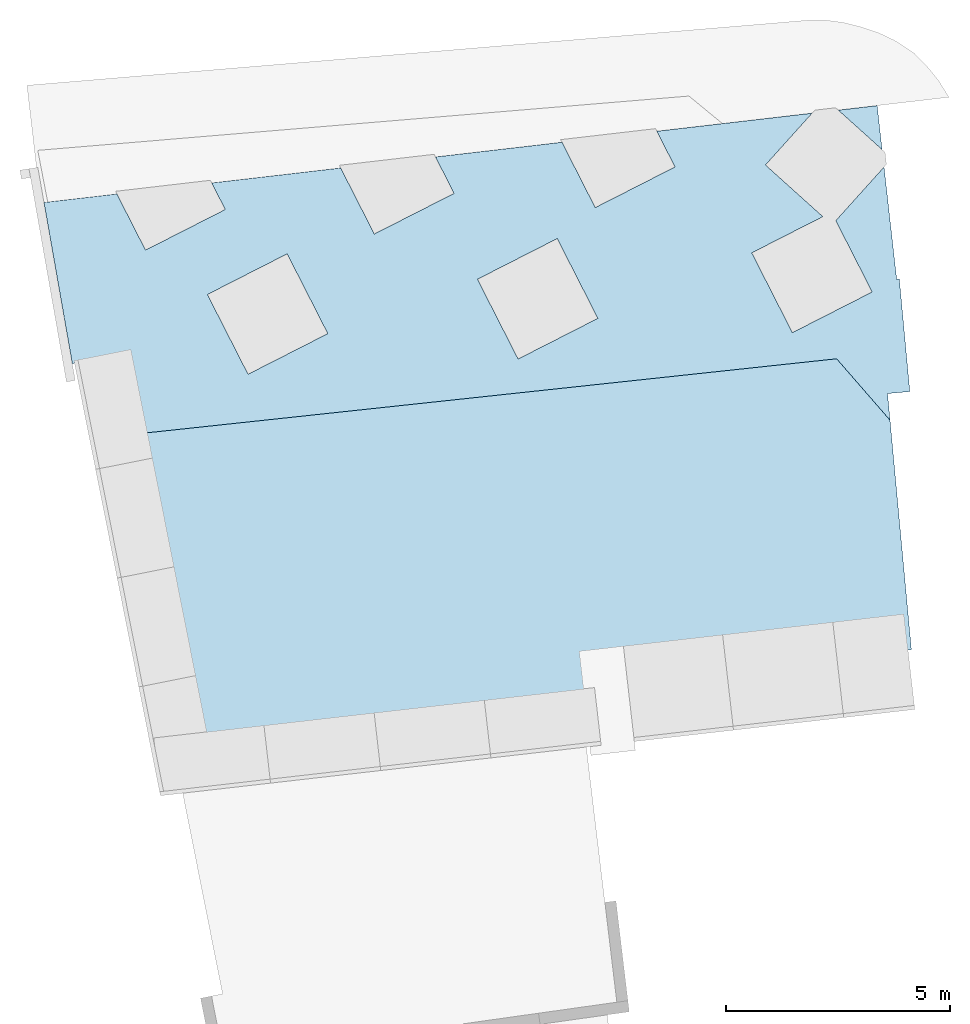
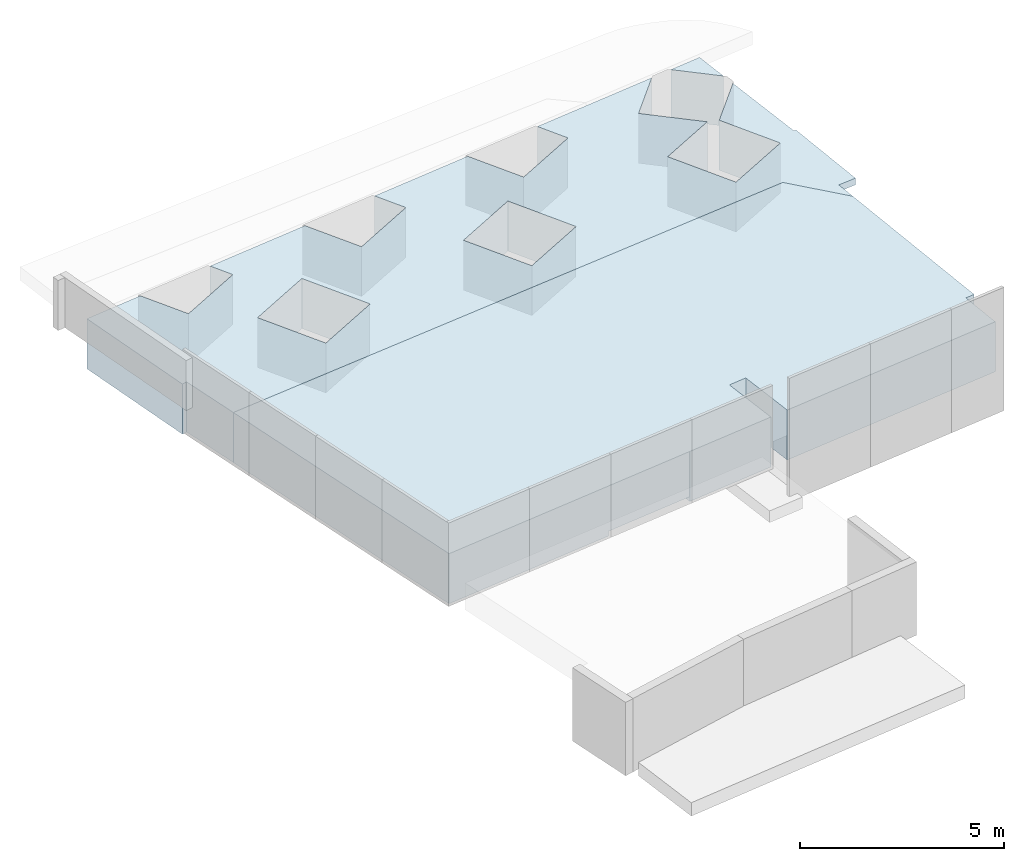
# One storey, part 2 of 3: 2 slabs.
"""IFC2X3 building model written with IfcOpenShell, lengths in centimetres."""

from ifc_helpers import new_model, entity, si_unit, converted_unit, derived_unit, direction, frame, origin, place, context, subcontext, project, spatial, face_set, faceted_brep, surface_model, material, material_list, layer, layer_set, layer_usage, type_object, element, save


model = new_model("IFC2X3")

# Units and contexts
model_context = context("Model", 3, precision=0.001, world=origin(), true_north=direction((0.0, 1.0)))
body_context = subcontext(model_context, "Body", "Model", "MODEL_VIEW")
ifc_project = project(units=[si_unit("LENGTHUNIT", "METRE", prefix="CENTI"), si_unit("AREAUNIT", "SQUARE_METRE"), si_unit("VOLUMEUNIT", "CUBIC_METRE"), converted_unit("PLANEANGLEUNIT", "DEGREE", entity("IfcPlaneAngleMeasure", 0.017453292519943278), si_unit("PLANEANGLEUNIT", "RADIAN"), dimensions=[0, 0, 0, 0, 0, 0, 0]), derived_unit("THERMALTRANSMITTANCEUNIT", [(si_unit("MASSUNIT", "GRAM", prefix="KILO"), 1), (si_unit("THERMODYNAMICTEMPERATUREUNIT", "KELVIN"), -1), (si_unit("TIMEUNIT", "SECOND"), -3)])], contexts=[model_context])

# Site, building, storey
site_placement = place(None, frame((0.0, 0.0, 30720.0)))
site = spatial("IfcSite", under=ifc_project, at=site_placement, Name="Default", CompositionType="ELEMENT")
building_placement = place(site_placement, origin())
building = spatial("IfcBuilding", under=site, at=building_placement, CompositionType="ELEMENT")
storey_placement = place(building_placement, origin())
storey = spatial("IfcBuildingStorey", under=building, at=storey_placement, Name="RdC", CompositionType="ELEMENT", Elevation=0.0)

# Slabs
ifc_material_1 = material(Name="05-Couche de forme 1")
ifc_layer_1 = layer(ifc_material_1, 30.0)
ifc_material_2 = material(Name="05-Couche de forme 2")
ifc_layer_2 = layer(ifc_material_2, 120.0)
ifc_layer_set = layer_set([ifc_layer_1, ifc_layer_2], Name="Sol:plateforme finie")
ifc_layer_usage = layer_usage(ifc_layer_set, "AXIS3", "POSITIVE", 0.0)
slab_type_1 = type_object("IfcSlabType", Name="Sol:plateforme finie", PredefinedType="FLOOR", material=ifc_layer_set)
slab_1_placement = place(storey_placement, origin())
element("IfcSlab", 1, at=slab_1_placement, inside=storey, type_object=slab_type_1, material=ifc_layer_usage, Name="Sol:plateforme finie", PredefinedType="FLOOR", context=body_context, shape_type="SurfaceModel", body=[
    surface_model("IfcFaceBasedSurfaceModel", [(27055.95457853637, -13565.14747917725, -159.99999952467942), (26899.363537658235, -12776.262073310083, -159.99999952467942), (28560.976065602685, -12597.90755857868, -159.99999952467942), (28680.41643256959, -12735.307983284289, -159.99999952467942), (28728.172244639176, -13248.427956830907, -159.99999952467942), (28703.26884879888, -13250.745599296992, -159.99999952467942), (28714.869136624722, -13375.392331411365, -159.99999952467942), (28082.96736450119, -13447.672494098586, -159.99999952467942), (28063.511610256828, -13277.582594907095, -159.99999952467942), (28013.835533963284, -13283.26479906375, -159.99999952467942), (28033.291288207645, -13453.354698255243, -159.99999952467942), (27786.897949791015, -13481.538430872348, -159.99999952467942), (27773.13746429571, -13361.238823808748, -159.99999952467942), (27526.744125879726, -13389.422556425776, -159.99999952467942), (27540.504611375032, -13509.722163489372, -159.99999952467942), (26899.363537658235, -12776.262073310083, -9.99999952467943), (27055.95457853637, -13565.14747917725, -9.99999952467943), (27540.504611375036, -13509.722163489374, -9.99999952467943), (27540.49505993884, -13509.63866105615, -9.99999952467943), (27786.88839835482, -13481.454928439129, -9.99999952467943), (27786.897949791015, -13481.538430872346, -9.99999952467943), (28033.291288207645, -13453.354698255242, -9.99999952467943), (28013.835533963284, -13283.264799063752, -9.99999952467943), (28063.511610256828, -13277.582594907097, -9.99999952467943), (28082.967364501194, -13447.672494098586, -9.99999952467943), (28714.869136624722, -13375.392331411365, -9.99999952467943), (28703.26884879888, -13250.745599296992, -9.99999952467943), (28728.170313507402, -13248.428136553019, -9.99999952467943), (28680.41643256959, -12735.307983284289, -9.99999952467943), (28560.976065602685, -12597.90755857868, -9.99999952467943), (28728.170313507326, -13248.428136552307, -159.99999952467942), (28728.172244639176, -13248.427956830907, -9.999999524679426), (27526.744125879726, -13389.422556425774, -145.79999999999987), (27540.49505993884, -13509.638661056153, -145.80000000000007), (27773.13746429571, -13361.23882380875, -145.79999999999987), (27786.888398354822, -13481.454928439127, -145.8000000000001)], [face_set([[[0, 1, 2, 3, 4, 5, 6, 7, 8, 9, 10, 11, 12, 13, 14]], [[15, 16, 17, 18, 19, 20, 21, 22, 23, 24, 25, 26, 27, 28, 29]], [[1, 0, 16, 15]], [[6, 25, 24, 7]], [[5, 30, 31, 26]], [[6, 5, 26, 25]], [[23, 8, 7, 24]], [[9, 22, 21, 10]], [[8, 23, 22, 9]], [[2, 1, 15, 29]], [[2, 29, 28, 3]], [[30, 3, 28, 27]], [[32, 33, 18, 17, 14, 13]], [[34, 12, 11, 20, 19, 35]], [[33, 35, 19, 18]], [[33, 32, 34, 35]], [[32, 13, 12, 34]], [[10, 21, 20, 11]], [[16, 0, 14, 17]]])]),
])
ifc_material_3 = material(Name="05-Terre ajoutée")
ifc_material_list = material_list([ifc_material_3, ifc_material_2])
slab_type_2 = type_object("IfcSlabType", Name="Sol:Terre végétale", PredefinedType="FLOOR")
slab_2_placement = place(storey_placement, origin())
element("IfcSlab", 2, at=slab_2_placement, inside=storey, type_object=slab_type_2, material=ifc_material_list, Name="Sol:Terre végétale", PredefinedType="FLOOR", context=body_context, shape_type="Brep", body=[
    faceted_brep([(28564.597689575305, -12041.944525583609, -160.0), (28651.60455688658, -12031.835544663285, -160.0), (28662.67606729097, -12130.254693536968, -160.0), (28651.60455688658, -12031.835544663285, -10.0), (28662.676067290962, -12130.25469353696, -10.0), (28564.5976895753, -12041.944525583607, -10.0)], [[[0, 1, 2]], [[1, 3, 4, 2]], [[0, 2, 4, 5]], [[3, 1, 0, 5]], [[4, 3, 5]]]),
    faceted_brep([(28701.246824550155, -12419.53511664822, -10.0), (28695.280683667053, -12420.090359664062, -10.0), (28667.03419229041, -12168.995835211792, -10.0), (28558.982170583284, -12288.999762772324, -10.0), (28640.2507256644, -12448.498282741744, -10.0), (28462.049420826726, -12539.296382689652, -10.0), (28371.251320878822, -12361.095077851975, -10.0), (28530.205268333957, -12280.103996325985, -10.0), (28401.89227430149, -12164.570457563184, -10.0), (28506.195446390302, -12048.73004930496, -10.0), (28158.77421763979, -12089.09553632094, -10.0), (28199.4408030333, -12168.90820403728, -10.0), (28021.239498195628, -12259.706303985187, -10.0), (27946.8545568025, -12113.71763655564, -10.0), (27663.9324144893, -12146.589231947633, -10.0), (27705.418131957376, -12228.009536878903, -10.0), (27527.2168271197, -12318.807636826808, -10.0), (27452.01275365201, -12171.211332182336, -10.0), (27163.53866323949, -12204.72798628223, -10.0), (27193.772938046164, -12264.066091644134, -10.0), (27015.571633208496, -12354.864191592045, -10.0), (26951.619002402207, -12229.350086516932, -10.0), (26788.51419199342, -12248.300583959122, -10.0), (26851.83909299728, -12608.62540335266, -10.0), (26865.548088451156, -12605.904214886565, -10.0), (26899.363537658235, -12776.262073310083, -10.0), (28560.976065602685, -12597.90755857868, -10.0), (28680.41643256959, -12735.30798328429, -10.0), (28674.880330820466, -12675.822024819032, -10.0), (28724.66378107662, -12671.188893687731, -10.0), (28026.92441313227, -12507.49068322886, -10.0), (27848.723108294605, -12598.288783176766, -10.0), (27757.92500834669, -12420.087478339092, -10.0), (27936.12631318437, -12329.28937839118, -10.0), (27423.045016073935, -12541.616653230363, -10.0), (27244.843711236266, -12632.414753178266, -10.0), (27154.04561128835, -12454.213448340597, -10.0), (27332.24691612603, -12363.415348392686, -10.0), (28701.246824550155, -12419.53511664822, -30.0), (28695.280683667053, -12420.090359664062, -30.0), (28724.66378107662, -12671.188893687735, -30.0), (28560.976065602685, -12597.90755857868, -160.0), (28680.416432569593, -12735.307983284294, -160.0), (26899.363537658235, -12776.262073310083, -160.0), (26865.548088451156, -12605.904214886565, -160.0), (26851.83909299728, -12608.62540335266, -160.0), (26788.51419199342, -12248.300583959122, -160.0), (27452.012753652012, -12171.211332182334, -160.0), (27163.538663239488, -12204.72798628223, -160.0), (28651.452237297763, -12424.084852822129, -30.0), (28674.880330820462, -12675.822024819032, -30.0), (28651.452237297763, -12424.084852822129, -160.0), (28695.27128409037, -12420.006803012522, -30.0), (28695.27128409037, -12420.00680301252, -160.0), (28026.92441313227, -12507.490683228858, -160.0), (27848.723108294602, -12598.288783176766, -160.0), (27757.925008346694, -12420.08747833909, -160.0), (27936.126313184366, -12329.28937839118, -160.0), (27423.045016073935, -12541.616653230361, -160.0), (27244.843711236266, -12632.414753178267, -160.0), (27154.045611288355, -12454.213448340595, -160.0), (27332.24691612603, -12363.415348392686, -160.0), (27193.772938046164, -12264.066091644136, -160.0), (27015.571633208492, -12354.864191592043, -160.0), (26951.619002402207, -12229.350086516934, -160.0), (27705.418131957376, -12228.009536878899, -160.0), (27527.216827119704, -12318.807636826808, -160.0), (27663.9324144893, -12146.589231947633, -160.0), (28199.4408030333, -12168.908204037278, -160.0), (28021.23949819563, -12259.706303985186, -160.0), (27946.8545568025, -12113.71763655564, -160.0), (28158.77421763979, -12089.09553632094, -160.0), (28640.2507256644, -12448.498282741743, -160.0), (28462.049420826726, -12539.29638268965, -160.0), (28371.25132087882, -12361.095077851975, -160.0), (28530.205268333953, -12280.103996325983, -160.0), (28401.89227430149, -12164.57045756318, -160.0), (28506.195446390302, -12048.73004930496, -160.0), (28558.982170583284, -12288.999762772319, -160.0), (28667.03419229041, -12168.995835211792, -160.0)], [[[0, 1, 2, 3, 4, 5, 6, 7, 8, 9, 10, 11, 12, 13, 14, 15, 16, 17, 18, 19, 20, 21, 22, 23, 24, 25, 26, 27, 28, 29], [30, 31, 32, 33], [34, 35, 36, 37]], [[1, 0, 38, 39]], [[38, 0, 29, 40]], [[26, 41, 42, 27]], [[43, 41, 26, 25]], [[44, 43, 25, 24]], [[45, 44, 24, 23]], [[46, 45, 23, 22]], [[47, 48, 18, 17]], [[49, 50, 28, 27, 42, 51]], [[50, 49, 52, 39, 38, 40]], [[49, 51, 53, 52]], [[28, 50, 40, 29]], [[30, 54, 55, 31]], [[31, 55, 56, 32]], [[32, 56, 57, 33]], [[54, 30, 33, 57]], [[34, 58, 59, 35]], [[35, 59, 60, 36]], [[36, 60, 61, 37]], [[58, 34, 37, 61]], [[19, 62, 63, 20]], [[20, 63, 64, 21]], [[62, 19, 18, 48]], [[15, 65, 66, 16]], [[16, 66, 47, 17]], [[65, 15, 14, 67]], [[11, 68, 69, 12]], [[12, 69, 70, 13]], [[68, 11, 10, 71]], [[4, 72, 73, 5]], [[5, 73, 74, 6]], [[6, 74, 75, 7]], [[7, 75, 76, 8]], [[8, 76, 77, 9]], [[78, 3, 2, 79]], [[72, 4, 3, 78]], [[70, 67, 14, 13]], [[77, 71, 10, 9]], [[46, 22, 21, 64]], [[1, 39, 52, 53, 79, 2]], [[41, 43, 44, 45, 46, 64, 63, 62, 48, 47, 66, 65, 67, 70, 69, 68, 71, 77, 76, 75, 74, 73, 72, 78, 79, 53, 51, 42], [55, 54, 57, 56], [59, 58, 61, 60]]]),
])

save(model, "model.ifc")
